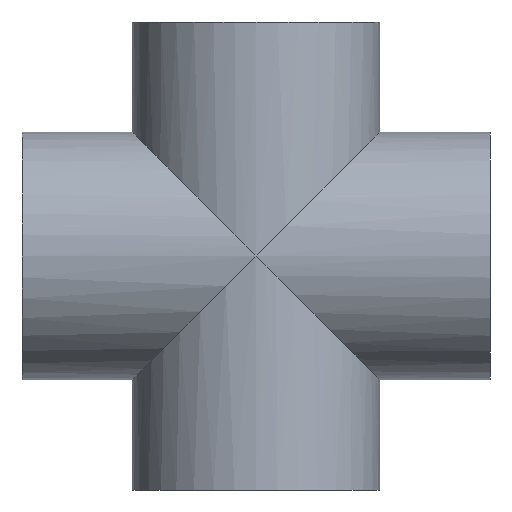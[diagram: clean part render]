
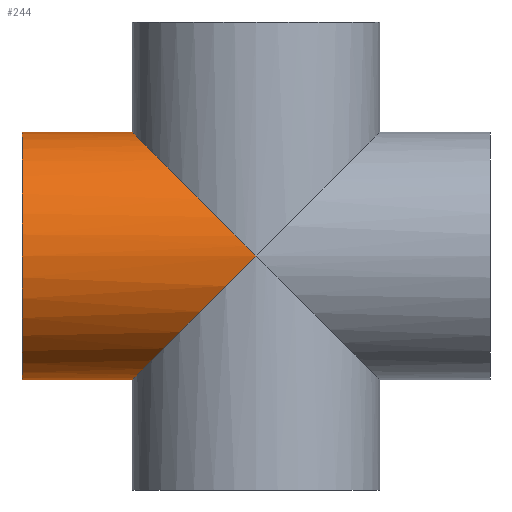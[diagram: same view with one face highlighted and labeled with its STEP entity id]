
A CAD part, left-side view. The second image highlights one B-rep face of the part: STEP entity #244.
In plain terms, the highlighted cylindrical face has radius 44.5 mm (diameter 89 mm), a full revolution.
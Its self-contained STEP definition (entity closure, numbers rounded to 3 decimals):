
#21=ELLIPSE('',#287,62.933,44.5);
#22=ELLIPSE('',#288,62.933,44.5);
#44=FACE_BOUND('',#98,.T.);
#64=FACE_OUTER_BOUND('',#97,.T.);
#97=EDGE_LOOP('',(#202));
#98=EDGE_LOOP('',(#203,#204));
#124=CIRCLE('',#286,44.5);
#141=VERTEX_POINT('',#431);
#142=VERTEX_POINT('',#432);
#144=VERTEX_POINT('',#438);
#166=EDGE_CURVE('',#144,#144,#124,.T.);
#167=EDGE_CURVE('',#141,#142,#21,.T.);
#168=EDGE_CURVE('',#142,#141,#22,.T.);
#202=ORIENTED_EDGE('',*,*,#166,.F.);
#203=ORIENTED_EDGE('',*,*,#167,.F.);
#204=ORIENTED_EDGE('',*,*,#168,.F.);
#228=CYLINDRICAL_SURFACE('',#285,44.5);
#244=ADVANCED_FACE('',(#64,#44),#228,.T.);
#285=AXIS2_PLACEMENT_3D('',#437,#363,#364);
#286=AXIS2_PLACEMENT_3D('',#439,#365,#366);
#287=AXIS2_PLACEMENT_3D('',#440,#367,#368);
#288=AXIS2_PLACEMENT_3D('',#441,#369,#370);
#363=DIRECTION('center_axis',(0.,1.,0.));
#364=DIRECTION('ref_axis',(1.,0.,0.));
#365=DIRECTION('center_axis',(0.,1.,0.));
#366=DIRECTION('ref_axis',(1.,0.,0.));
#367=DIRECTION('center_axis',(0.,-0.707,0.707));
#368=DIRECTION('ref_axis',(0.,-0.707,-0.707));
#369=DIRECTION('center_axis',(0.,-0.707,-0.707));
#370=DIRECTION('ref_axis',(0.,0.707,-0.707));
#431=CARTESIAN_POINT('',(44.5,0.,0.));
#432=CARTESIAN_POINT('',(-44.5,0.,0.));
#437=CARTESIAN_POINT('Origin',(0.,0.,0.));
#438=CARTESIAN_POINT('',(-44.5,84.,0.));
#439=CARTESIAN_POINT('Origin',(0.,84.,0.));
#440=CARTESIAN_POINT('Origin',(0.,0.,0.));
#441=CARTESIAN_POINT('Origin',(0.,0.,0.));
